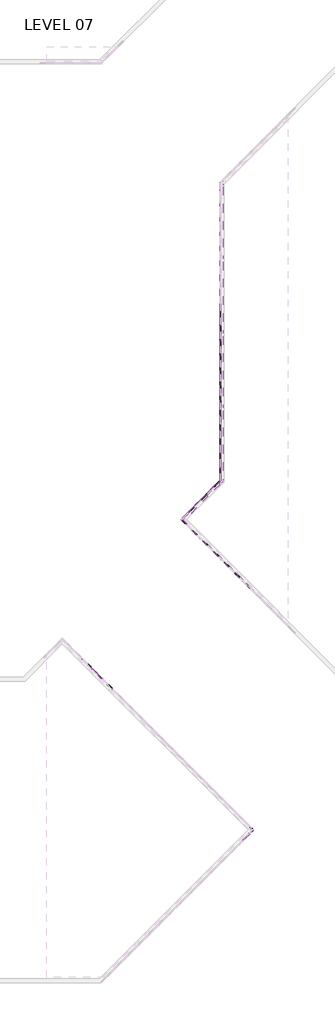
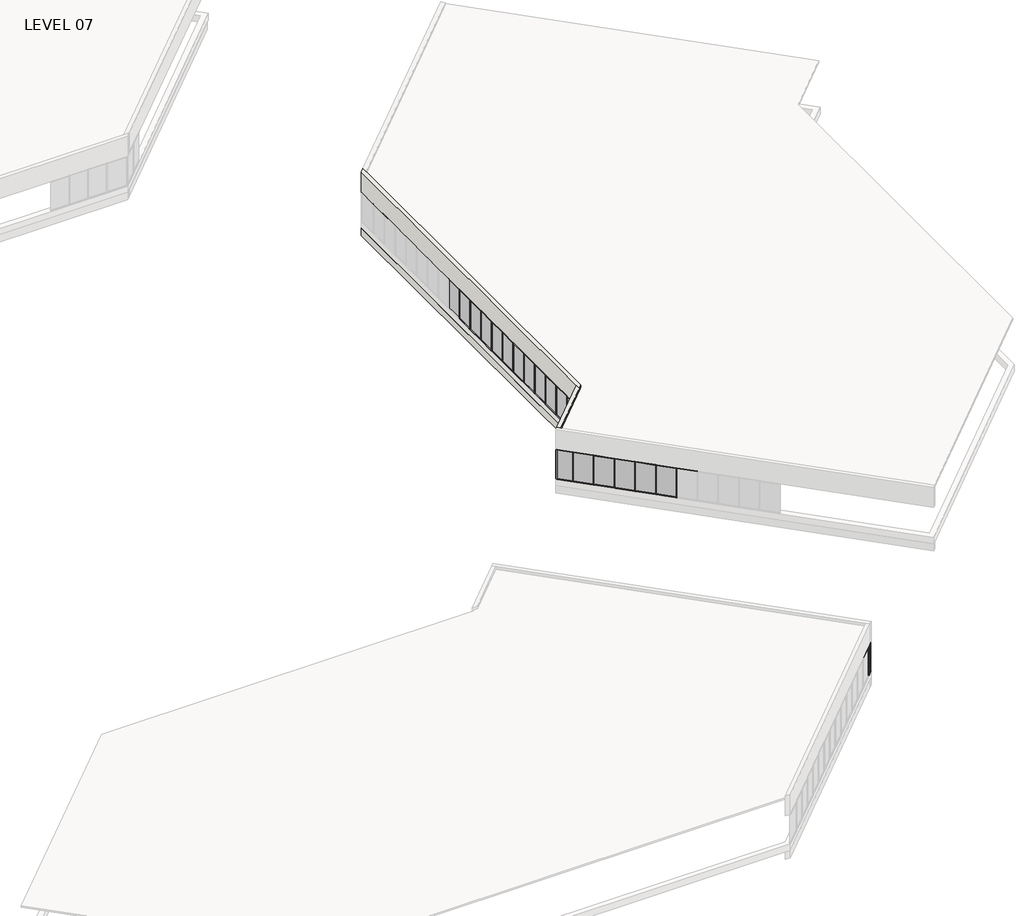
# One storey, part 10 of 18: 79 members, 25 plates, 4 walls.
"""IFC4 building model written with IfcOpenShell, lengths in millimetres."""

from ifc_helpers import new_model, si_unit, frame, origin, place, context, project, spatial, polyline, outline, extrude, faceted_brep, transform, mapped, element, save
from components import member_5247f267, member_e44af9ab, member_800970d4, member_ac5115e9, member_25b26a38, member_45eb7f2e, member_dd9f6d43, plate_67294edd, plate_c01932d8, plate_6d527a83, plate_9c66726c, plate_6ecefdb5, plate_129ab9d0, plate_c3b8b83d

model = new_model("IFC4")

# Units and contexts
model_context = context("Model", 3, world=origin())
ifc_project = project(units=[si_unit("LENGTHUNIT", "METRE", prefix="MILLI")], contexts=[model_context])

# Site, building, storey
site = spatial("IfcSite", under=ifc_project)
building = spatial("IfcBuilding", under=site)
storey = spatial("IfcBuildingStorey", under=building, Name="LEVEL 07", Elevation=23368.0)

# Members
placement = place(None, origin())
member_shape = member_5247f267(model_context)
element("IfcMember", 1, ObjectType="Rectangular Mullion : 2\" x 4.5\" rectangular", at=placement, inside=storey, context=model_context, shape_type="MappedRepresentation", body=[
    mapped(member_shape, transform((50218.4982901, 24903.2907176, 23368.0), x_axis=(0.0, 0.0, -1.0), y_axis=(0.707106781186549, 0.7071067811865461, 0.0), z_axis=(0.707106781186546, -0.7071067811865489, 0.0))),
])
element("IfcMember", 2, ObjectType="Rectangular Mullion : 2\" x 4.5\" rectangular", at=placement, inside=storey, context=model_context, shape_type="MappedRepresentation", body=[
    mapped(member_shape, transform((48063.236821, 27058.5521867, 23368.0), x_axis=(0.0, 0.0, -1.0), y_axis=(0.7071067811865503, 0.7071067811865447, 0.0), z_axis=(0.7071067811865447, -0.7071067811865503, 0.0))),
])
element("IfcMember", 3, ObjectType="Rectangular Mullion : 2\" x 4.5\" rectangular", at=placement, inside=storey, context=model_context, shape_type="MappedRepresentation", body=[
    mapped(member_shape, transform((64227.5191663, 10093.8459028, 25958.8), x_axis=(0.0, 0.0, 1.0), y_axis=(0.7071067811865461, -0.7071067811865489, 0.0), z_axis=(0.7071067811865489, 0.7071067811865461, 0.0))),
])
element("IfcMember", 4, ObjectType="Rectangular Mullion : 2\" x 4.5\" rectangular", at=placement, inside=storey, context=model_context, shape_type="MappedRepresentation", body=[
    mapped(member_shape, transform((48099.1578455, 27022.6311622, 25958.8), x_axis=(0.0, 0.0, 1.0), y_axis=(0.707106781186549, 0.7071067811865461, 0.0), z_axis=(-0.7071067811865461, 0.707106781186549, 0.0))),
])
member_2_shape = member_e44af9ab(model_context)
element("IfcMember", 5, ObjectType="Rectangular Mullion : 2\" x 4.5\" rectangular", at=placement, inside=storey, context=model_context, shape_type="MappedRepresentation", body=[
    mapped(member_2_shape, transform((64245.4796786, 10111.8064151, 23368.0), x_axis=(0.7071067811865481, 0.7071067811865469, 0.0), y_axis=(0.7071067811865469, -0.7071067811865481, 0.0), z_axis=(0.0, 0.0, -1.0))),
])
element("IfcMember", 6, ObjectType="Rectangular Mullion : 2\" x 4.5\" rectangular", at=placement, inside=storey, context=model_context, shape_type="MappedRepresentation", body=[
    mapped(member_2_shape, transform((50236.4588023, 24885.3302054, 23368.0), x_axis=(-0.7071067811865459, 0.7071067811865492, 0.0), y_axis=(0.7071067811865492, 0.7071067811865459, 0.0), z_axis=(0.0, 0.0, -1.0))),
])
element("IfcMember", 7, ObjectType="Rectangular Mullion : 2\" x 4.5\" rectangular", at=placement, inside=storey, context=model_context, shape_type="MappedRepresentation", body=[
    mapped(member_2_shape, transform((48081.1973333, 27040.5916745, 23368.0), x_axis=(-0.7071067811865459, 0.7071067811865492, 0.0), y_axis=(0.7071067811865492, 0.7071067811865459, 0.0), z_axis=(0.0, 0.0, -1.0))),
])
member_3_shape = member_800970d4(model_context)
element("IfcMember", 8, ObjectType="Rectangular Mullion : 2\" x 4.5\" rectangular", at=placement, inside=storey, context=model_context, shape_type="MappedRepresentation", body=[
    mapped(member_3_shape, transform((64627.7311356, 10494.0578721, 23368.0), x_axis=(0.7071067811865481, 0.7071067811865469, 0.0), y_axis=(0.7071067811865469, -0.7071067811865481, 0.0), z_axis=(0.0, 0.0, -1.0))),
])
member_4_shape = member_ac5115e9(model_context)
element("IfcMember", 9, ObjectType="Rectangular Mullion : 2\" x 4.5\" rectangular", at=placement, inside=storey, context=model_context, shape_type="MappedRepresentation", body=[
    mapped(member_4_shape, transform((64591.8101111, 10458.1368476, 25958.8), x_axis=(0.0, 0.0, 1.0), y_axis=(0.7071067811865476, -0.7071067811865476, 0.0), z_axis=(0.7071067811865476, 0.7071067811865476, 0.0))),
])
element("IfcMember", 10, ObjectType="Rectangular Mullion : 2\" x 4.5\" rectangular", at=placement, inside=storey, context=model_context, shape_type="MappedRepresentation", body=[
    mapped(member_4_shape, transform((64263.4401908, 10129.7669273, 23368.0), x_axis=(0.0, 0.0, -1.0), y_axis=(0.7071067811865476, -0.7071067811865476, 0.0), z_axis=(-0.7071067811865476, -0.7071067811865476, 0.0))),
])
member_5_shape = member_25b26a38(model_context)
element("IfcMember", 11, ObjectType="Rectangular Mullion : 2\" x 4.5\" rectangular", at=placement, inside=storey, context=model_context, shape_type="MappedRepresentation", body=[
    mapped(member_5_shape, transform((64591.8101111, 10529.9788966, 23368.0), x_axis=(0.0, 0.0, -1.0), y_axis=(0.7071067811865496, 0.7071067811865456, 0.0), z_axis=(0.7071067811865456, -0.7071067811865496, 0.0))),
])
element("IfcMember", 12, ObjectType="Rectangular Mullion : 2\" x 4.5\" rectangular", at=placement, inside=storey, context=model_context, shape_type="MappedRepresentation", body=[
    mapped(member_shape, transform((63554.1786299, 36011.8675394, 25958.8), x_axis=(0.0, 0.0, 1.0), y_axis=(0.7071067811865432, 0.7071067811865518, 0.0), z_axis=(-0.7071067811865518, 0.7071067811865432, 0.0))),
])
element("IfcMember", 13, ObjectType="Rectangular Mullion : 2\" x 4.5\" rectangular", at=placement, inside=storey, context=model_context, shape_type="MappedRepresentation", body=[
    mapped(member_shape, transform((62476.5478954, 37089.4982739, 25958.8), x_axis=(0.0, 0.0, 1.0), y_axis=(0.7071067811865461, 0.7071067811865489, 0.0), z_axis=(-0.7071067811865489, 0.7071067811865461, 0.0))),
])
element("IfcMember", 14, ObjectType="Rectangular Mullion : 2\" x 4.5\" rectangular", at=placement, inside=storey, context=model_context, shape_type="MappedRepresentation", body=[
    mapped(member_shape, transform((61398.9171608, 38167.1290085, 25958.8), x_axis=(0.0, 0.0, 1.0), y_axis=(0.7071067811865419, 0.7071067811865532, 0.0), z_axis=(-0.7071067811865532, 0.7071067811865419, 0.0))),
])
element("IfcMember", 15, ObjectType="Rectangular Mullion : 2\" x 4.5\" rectangular", at=placement, inside=storey, context=model_context, shape_type="MappedRepresentation", body=[
    mapped(member_shape, transform((60321.2864263, 39244.759743, 25958.8), x_axis=(0.0, 0.0, 1.0), y_axis=(0.7071067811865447, 0.7071067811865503, 0.0), z_axis=(-0.7071067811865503, 0.7071067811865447, 0.0))),
])
element("IfcMember", 16, ObjectType="Rectangular Mullion : 2\" x 4.5\" rectangular", at=placement, inside=storey, context=model_context, shape_type="MappedRepresentation", body=[
    mapped(member_shape, transform((59243.6556918, 40322.3904775, 25958.8), x_axis=(0.0, 0.0, 1.0), y_axis=(0.7071067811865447, 0.7071067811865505, 0.0), z_axis=(-0.7071067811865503, 0.7071067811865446, 0.0))),
])
element("IfcMember", 17, ObjectType="Rectangular Mullion : 2\" x 4.5\" rectangular", at=placement, inside=storey, context=model_context, shape_type="MappedRepresentation", body=[
    mapped(member_shape, transform((58166.0249572, 41400.021212, 25958.8), x_axis=(0.0, 0.0, 1.0), y_axis=(0.7071067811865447, 0.7071067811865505, 0.0), z_axis=(-0.7071067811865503, 0.7071067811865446, 0.0))),
])
element("IfcMember", 18, ObjectType="Rectangular Mullion : 2\" x 4.5\" rectangular", at=placement, inside=storey, context=model_context, shape_type="MappedRepresentation", body=[
    mapped(member_shape, transform((60285.3615109, 45275.2505186, 25958.8), x_axis=(0.0, 0.0, 1.0), y_axis=(0.7071067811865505, -0.7071067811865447, 0.0), z_axis=(0.7071067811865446, 0.7071067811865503, 0.0))),
])
element("IfcMember", 19, ObjectType="Rectangular Mullion : 2\" x 4.5\" rectangular", at=placement, inside=storey, context=model_context, shape_type="MappedRepresentation", body=[
    mapped(member_shape, transform((59207.7307764, 44197.6197841, 25958.8), x_axis=(0.0, 0.0, 1.0), y_axis=(0.7071067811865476, -0.7071067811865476, 0.0), z_axis=(0.7071067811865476, 0.7071067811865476, 0.0))),
])
element("IfcMember", 20, ObjectType="Rectangular Mullion : 2\" x 4.5\" rectangular", at=placement, inside=storey, context=model_context, shape_type="MappedRepresentation", body=[
    mapped(member_shape, transform((61263.7847164, 62877.3675885, 25958.8), x_axis=(0.0, 0.0, 1.0), y_axis=(-1.0, 0.0, 0.0), z_axis=(0.0, -1.0, 0.0))),
])
element("IfcMember", 21, ObjectType="Rectangular Mullion : 2\" x 4.5\" rectangular", at=placement, inside=storey, context=model_context, shape_type="MappedRepresentation", body=[
    mapped(member_shape, transform((61263.7847164, 59829.3675885, 25958.8), x_axis=(0.0, 0.0, 1.0), y_axis=(-1.0, 0.0, 0.0), z_axis=(0.0, -1.0, 0.0))),
])
element("IfcMember", 22, ObjectType="Rectangular Mullion : 2\" x 4.5\" rectangular", at=placement, inside=storey, context=model_context, shape_type="MappedRepresentation", body=[
    mapped(member_shape, transform((61263.7847164, 58305.3675885, 25958.8), x_axis=(0.0, 0.0, 1.0), y_axis=(-1.0, 0.0, 0.0), z_axis=(0.0, -1.0, 0.0))),
])
element("IfcMember", 23, ObjectType="Rectangular Mullion : 2\" x 4.5\" rectangular", at=placement, inside=storey, context=model_context, shape_type="MappedRepresentation", body=[
    mapped(member_shape, transform((61263.7847164, 56781.3675885, 25958.8), x_axis=(0.0, 0.0, 1.0), y_axis=(-1.0, 0.0, 0.0), z_axis=(0.0, -1.0, 0.0))),
])
element("IfcMember", 24, ObjectType="Rectangular Mullion : 2\" x 4.5\" rectangular", at=placement, inside=storey, context=model_context, shape_type="MappedRepresentation", body=[
    mapped(member_shape, transform((61263.7847164, 55257.3675885, 25958.8), x_axis=(0.0, 0.0, 1.0), y_axis=(-1.0, 0.0, 0.0), z_axis=(0.0, -1.0, 0.0))),
])
element("IfcMember", 25, ObjectType="Rectangular Mullion : 2\" x 4.5\" rectangular", at=placement, inside=storey, context=model_context, shape_type="MappedRepresentation", body=[
    mapped(member_shape, transform((61263.7847164, 52209.3675885, 25958.8), x_axis=(0.0, 0.0, 1.0), y_axis=(-1.0, 0.0, 0.0), z_axis=(0.0, -1.0, 0.0))),
])
element("IfcMember", 26, ObjectType="Rectangular Mullion : 2\" x 4.5\" rectangular", at=placement, inside=storey, context=model_context, shape_type="MappedRepresentation", body=[
    mapped(member_shape, transform((61263.7847164, 50685.3675885, 25958.8), x_axis=(0.0, 0.0, 1.0), y_axis=(-1.0, 0.0, 0.0), z_axis=(0.0, -1.0, 0.0))),
])
element("IfcMember", 27, ObjectType="Rectangular Mullion : 2\" x 4.5\" rectangular", at=placement, inside=storey, context=model_context, shape_type="MappedRepresentation", body=[
    mapped(member_shape, transform((61263.7847164, 49161.3675885, 25958.8), x_axis=(0.0, 0.0, 1.0), y_axis=(-1.0, 0.0, 0.0), z_axis=(0.0, -1.0, 0.0))),
])
element("IfcMember", 28, ObjectType="Rectangular Mullion : 2\" x 4.5\" rectangular", at=placement, inside=storey, context=model_context, shape_type="MappedRepresentation", body=[
    mapped(member_shape, transform((61263.7847164, 47637.3675885, 25958.8), x_axis=(0.0, 0.0, 1.0), y_axis=(-1.0, 0.0, 0.0), z_axis=(0.0, -1.0, 0.0))),
])
element("IfcMember", 29, ObjectType="Rectangular Mullion : 2\" x 4.5\" rectangular", at=placement, inside=storey, context=model_context, shape_type="MappedRepresentation", body=[
    mapped(member_shape, transform((61263.7847164, 53733.3675885, 25958.8), x_axis=(0.0, 0.0, 1.0), y_axis=(-1.0, 0.0, 0.0), z_axis=(0.0, -1.0, 0.0))),
])
element("IfcMember", 30, ObjectType="Rectangular Mullion : 2\" x 4.5\" rectangular", at=placement, inside=storey, context=model_context, shape_type="MappedRepresentation", body=[
    mapped(member_shape, transform((61263.7847164, 61353.3675885, 25958.8), x_axis=(0.0, 0.0, 1.0), y_axis=(-1.0, 0.0, 0.0), z_axis=(0.0, -1.0, 0.0))),
])
element("IfcMember", 31, ObjectType="Rectangular Mullion : 2\" x 4.5\" rectangular", at=placement, inside=storey, context=model_context, shape_type="MappedRepresentation", body=[
    mapped(member_shape, transform((63518.2576054, 36047.7885639, 23368.0), x_axis=(0.0, 0.0, -1.0), y_axis=(0.7071067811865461, 0.7071067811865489, 0.0), z_axis=(0.7071067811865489, -0.7071067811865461, 0.0))),
])
element("IfcMember", 32, ObjectType="Rectangular Mullion : 2\" x 4.5\" rectangular", at=placement, inside=storey, context=model_context, shape_type="MappedRepresentation", body=[
    mapped(member_shape, transform((62440.6268709, 37125.4192984, 23368.0), x_axis=(0.0, 0.0, -1.0), y_axis=(0.7071067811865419, 0.7071067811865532, 0.0), z_axis=(0.7071067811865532, -0.7071067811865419, 0.0))),
])
element("IfcMember", 33, ObjectType="Rectangular Mullion : 2\" x 4.5\" rectangular", at=placement, inside=storey, context=model_context, shape_type="MappedRepresentation", body=[
    mapped(member_shape, transform((61362.9961363, 38203.0500329, 23368.0), x_axis=(0.0, 0.0, -1.0), y_axis=(0.7071067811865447, 0.7071067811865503, 0.0), z_axis=(0.7071067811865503, -0.7071067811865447, 0.0))),
])
element("IfcMember", 34, ObjectType="Rectangular Mullion : 2\" x 4.5\" rectangular", at=placement, inside=storey, context=model_context, shape_type="MappedRepresentation", body=[
    mapped(member_shape, transform((60285.3654018, 39280.6807675, 23368.0), x_axis=(0.0, 0.0, -1.0), y_axis=(0.7071067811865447, 0.7071067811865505, 0.0), z_axis=(0.7071067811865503, -0.7071067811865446, 0.0))),
])
element("IfcMember", 35, ObjectType="Rectangular Mullion : 2\" x 4.5\" rectangular", at=placement, inside=storey, context=model_context, shape_type="MappedRepresentation", body=[
    mapped(member_shape, transform((59207.7346673, 40358.311502, 23368.0), x_axis=(0.0, 0.0, -1.0), y_axis=(0.7071067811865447, 0.7071067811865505, 0.0), z_axis=(0.7071067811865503, -0.7071067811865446, 0.0))),
])
element("IfcMember", 36, ObjectType="Rectangular Mullion : 2\" x 4.5\" rectangular", at=placement, inside=storey, context=model_context, shape_type="MappedRepresentation", body=[
    mapped(member_shape, transform((58166.0210663, 43155.9100741, 23368.0), x_axis=(0.0, 0.0, -1.0), y_axis=(0.7071067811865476, -0.7071067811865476, 0.0), z_axis=(-0.7071067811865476, -0.7071067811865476, 0.0))),
])
element("IfcMember", 37, ObjectType="Rectangular Mullion : 2\" x 4.5\" rectangular", at=placement, inside=storey, context=model_context, shape_type="MappedRepresentation", body=[
    mapped(member_shape, transform((59243.6518008, 44233.5408086, 23368.0), x_axis=(0.0, 0.0, -1.0), y_axis=(0.7071067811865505, -0.7071067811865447, 0.0), z_axis=(-0.7071067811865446, -0.7071067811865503, 0.0))),
])
element("IfcMember", 38, ObjectType="Rectangular Mullion : 2\" x 4.5\" rectangular", at=placement, inside=storey, context=model_context, shape_type="MappedRepresentation", body=[
    mapped(member_shape, transform((61263.7847164, 62826.5675885, 23368.0), x_axis=(0.0, 0.0, -1.0), y_axis=(-1.0, 0.0, 0.0), z_axis=(0.0, 1.0, 0.0))),
])
element("IfcMember", 39, ObjectType="Rectangular Mullion : 2\" x 4.5\" rectangular", at=placement, inside=storey, context=model_context, shape_type="MappedRepresentation", body=[
    mapped(member_shape, transform((61263.7847164, 59778.5675885, 23368.0), x_axis=(0.0, 0.0, -1.0), y_axis=(-1.0, 0.0, 0.0), z_axis=(0.0, 1.0, 0.0))),
])
element("IfcMember", 40, ObjectType="Rectangular Mullion : 2\" x 4.5\" rectangular", at=placement, inside=storey, context=model_context, shape_type="MappedRepresentation", body=[
    mapped(member_shape, transform((61263.7847164, 58254.5675885, 23368.0), x_axis=(0.0, 0.0, -1.0), y_axis=(-1.0, 0.0, 0.0), z_axis=(0.0, 1.0, 0.0))),
])
element("IfcMember", 41, ObjectType="Rectangular Mullion : 2\" x 4.5\" rectangular", at=placement, inside=storey, context=model_context, shape_type="MappedRepresentation", body=[
    mapped(member_shape, transform((61263.7847164, 56730.5675885, 23368.0), x_axis=(0.0, 0.0, -1.0), y_axis=(-1.0, 0.0, 0.0), z_axis=(0.0, 1.0, 0.0))),
])
element("IfcMember", 42, ObjectType="Rectangular Mullion : 2\" x 4.5\" rectangular", at=placement, inside=storey, context=model_context, shape_type="MappedRepresentation", body=[
    mapped(member_shape, transform((61263.7847164, 55206.5675885, 23368.0), x_axis=(0.0, 0.0, -1.0), y_axis=(-1.0, 0.0, 0.0), z_axis=(0.0, 1.0, 0.0))),
])
element("IfcMember", 43, ObjectType="Rectangular Mullion : 2\" x 4.5\" rectangular", at=placement, inside=storey, context=model_context, shape_type="MappedRepresentation", body=[
    mapped(member_shape, transform((61263.7847164, 52158.5675885, 23368.0), x_axis=(0.0, 0.0, -1.0), y_axis=(-1.0, 0.0, 0.0), z_axis=(0.0, 1.0, 0.0))),
])
element("IfcMember", 44, ObjectType="Rectangular Mullion : 2\" x 4.5\" rectangular", at=placement, inside=storey, context=model_context, shape_type="MappedRepresentation", body=[
    mapped(member_shape, transform((61263.7847164, 50634.5675885, 23368.0), x_axis=(0.0, 0.0, -1.0), y_axis=(-1.0, 0.0, 0.0), z_axis=(0.0, 1.0, 0.0))),
])
element("IfcMember", 45, ObjectType="Rectangular Mullion : 2\" x 4.5\" rectangular", at=placement, inside=storey, context=model_context, shape_type="MappedRepresentation", body=[
    mapped(member_shape, transform((61263.7847164, 49110.5675885, 23368.0), x_axis=(0.0, 0.0, -1.0), y_axis=(-1.0, 0.0, 0.0), z_axis=(0.0, 1.0, 0.0))),
])
element("IfcMember", 46, ObjectType="Rectangular Mullion : 2\" x 4.5\" rectangular", at=placement, inside=storey, context=model_context, shape_type="MappedRepresentation", body=[
    mapped(member_shape, transform((61263.7847164, 53682.5675885, 23368.0), x_axis=(0.0, 0.0, -1.0), y_axis=(-1.0, 0.0, 0.0), z_axis=(0.0, 1.0, 0.0))),
])
element("IfcMember", 47, ObjectType="Rectangular Mullion : 2\" x 4.5\" rectangular", at=placement, inside=storey, context=model_context, shape_type="MappedRepresentation", body=[
    mapped(member_shape, transform((61263.7847164, 61302.5675885, 23368.0), x_axis=(0.0, 0.0, -1.0), y_axis=(-1.0, 0.0, 0.0), z_axis=(0.0, 1.0, 0.0))),
])
element("IfcMember", 48, ObjectType="Rectangular Mullion : 2\" x 4.5\" rectangular", at=placement, inside=storey, context=model_context, shape_type="MappedRepresentation", body=[
    mapped(member_2_shape, transform((63536.2181176, 36029.8280517, 23368.0), x_axis=(-0.7071067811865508, 0.7071067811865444, 0.0), y_axis=(0.7071067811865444, 0.7071067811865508, 0.0), z_axis=(0.0, 0.0, -1.0))),
])
element("IfcMember", 49, ObjectType="Rectangular Mullion : 2\" x 4.5\" rectangular", at=placement, inside=storey, context=model_context, shape_type="MappedRepresentation", body=[
    mapped(member_2_shape, transform((62458.5873831, 37107.4587862, 23368.0), x_axis=(-0.7071067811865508, 0.7071067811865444, 0.0), y_axis=(0.7071067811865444, 0.7071067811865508, 0.0), z_axis=(0.0, 0.0, -1.0))),
])
element("IfcMember", 50, ObjectType="Rectangular Mullion : 2\" x 4.5\" rectangular", at=placement, inside=storey, context=model_context, shape_type="MappedRepresentation", body=[
    mapped(member_2_shape, transform((61380.9566486, 38185.0895207, 23368.0), x_axis=(-0.7071067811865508, 0.7071067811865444, 0.0), y_axis=(0.7071067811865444, 0.7071067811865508, 0.0), z_axis=(0.0, 0.0, -1.0))),
])
element("IfcMember", 51, ObjectType="Rectangular Mullion : 2\" x 4.5\" rectangular", at=placement, inside=storey, context=model_context, shape_type="MappedRepresentation", body=[
    mapped(member_2_shape, transform((60303.3259141, 39262.7202552, 23368.0), x_axis=(-0.7071067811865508, 0.7071067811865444, 0.0), y_axis=(0.7071067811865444, 0.7071067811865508, 0.0), z_axis=(0.0, 0.0, -1.0))),
])
element("IfcMember", 52, ObjectType="Rectangular Mullion : 2\" x 4.5\" rectangular", at=placement, inside=storey, context=model_context, shape_type="MappedRepresentation", body=[
    mapped(member_2_shape, transform((59225.6951795, 40340.3509898, 23368.0), x_axis=(-0.7071067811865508, 0.7071067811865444, 0.0), y_axis=(0.7071067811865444, 0.7071067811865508, 0.0), z_axis=(0.0, 0.0, -1.0))),
])
element("IfcMember", 53, ObjectType="Rectangular Mullion : 2\" x 4.5\" rectangular", at=placement, inside=storey, context=model_context, shape_type="MappedRepresentation", body=[
    mapped(member_2_shape, transform((58148.064445, 41417.9817243, 23368.0), x_axis=(-0.7071067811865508, 0.7071067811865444, 0.0), y_axis=(0.7071067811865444, 0.7071067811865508, 0.0), z_axis=(0.0, 0.0, -1.0))),
])
element("IfcMember", 54, ObjectType="Rectangular Mullion : 2\" x 4.5\" rectangular", at=placement, inside=storey, context=model_context, shape_type="MappedRepresentation", body=[
    mapped(member_2_shape, transform((58148.0605541, 43137.9495618, 23368.0), x_axis=(0.7071067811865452, 0.7071067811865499, 0.0), y_axis=(0.7071067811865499, -0.7071067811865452, 0.0), z_axis=(0.0, 0.0, -1.0))),
])
element("IfcMember", 55, ObjectType="Rectangular Mullion : 2\" x 4.5\" rectangular", at=placement, inside=storey, context=model_context, shape_type="MappedRepresentation", body=[
    mapped(member_2_shape, transform((60303.3220231, 45293.2110309, 23368.0), x_axis=(0.7071067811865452, 0.7071067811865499, 0.0), y_axis=(0.7071067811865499, -0.7071067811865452, 0.0), z_axis=(0.0, 0.0, -1.0))),
])
element("IfcMember", 56, ObjectType="Rectangular Mullion : 2\" x 4.5\" rectangular", at=placement, inside=storey, context=model_context, shape_type="MappedRepresentation", body=[
    mapped(member_2_shape, transform((59225.6912886, 44215.5802963, 23368.0), x_axis=(0.7071067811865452, 0.7071067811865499, 0.0), y_axis=(0.7071067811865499, -0.7071067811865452, 0.0), z_axis=(0.0, 0.0, -1.0))),
])
element("IfcMember", 57, ObjectType="Rectangular Mullion : 2\" x 4.5\" rectangular", at=placement, inside=storey, context=model_context, shape_type="MappedRepresentation", body=[
    mapped(member_2_shape, transform((61263.7847164, 62851.9675885, 23368.0), x_axis=(0.0, -1.0, 0.0), y_axis=(-1.0, 0.0, 0.0), z_axis=(0.0, 0.0, -1.0))),
])
element("IfcMember", 58, ObjectType="Rectangular Mullion : 2\" x 4.5\" rectangular", at=placement, inside=storey, context=model_context, shape_type="MappedRepresentation", body=[
    mapped(member_2_shape, transform((61263.7847164, 59803.9675885, 23368.0), x_axis=(0.0, -1.0, 0.0), y_axis=(-1.0, 0.0, 0.0), z_axis=(0.0, 0.0, -1.0))),
])
element("IfcMember", 59, ObjectType="Rectangular Mullion : 2\" x 4.5\" rectangular", at=placement, inside=storey, context=model_context, shape_type="MappedRepresentation", body=[
    mapped(member_2_shape, transform((61263.7847164, 58279.9675885, 23368.0), x_axis=(0.0, -1.0, 0.0), y_axis=(-1.0, 0.0, 0.0), z_axis=(0.0, 0.0, -1.0))),
])
element("IfcMember", 60, ObjectType="Rectangular Mullion : 2\" x 4.5\" rectangular", at=placement, inside=storey, context=model_context, shape_type="MappedRepresentation", body=[
    mapped(member_2_shape, transform((61263.7847164, 56755.9675885, 23368.0), x_axis=(0.0, -1.0, 0.0), y_axis=(-1.0, 0.0, 0.0), z_axis=(0.0, 0.0, -1.0))),
])
element("IfcMember", 61, ObjectType="Rectangular Mullion : 2\" x 4.5\" rectangular", at=placement, inside=storey, context=model_context, shape_type="MappedRepresentation", body=[
    mapped(member_2_shape, transform((61263.7847164, 55231.9675885, 23368.0), x_axis=(0.0, -1.0, 0.0), y_axis=(-1.0, 0.0, 0.0), z_axis=(0.0, 0.0, -1.0))),
])
element("IfcMember", 62, ObjectType="Rectangular Mullion : 2\" x 4.5\" rectangular", at=placement, inside=storey, context=model_context, shape_type="MappedRepresentation", body=[
    mapped(member_2_shape, transform((61263.7847164, 52183.9675885, 23368.0), x_axis=(0.0, -1.0, 0.0), y_axis=(-1.0, 0.0, 0.0), z_axis=(0.0, 0.0, -1.0))),
])
element("IfcMember", 63, ObjectType="Rectangular Mullion : 2\" x 4.5\" rectangular", at=placement, inside=storey, context=model_context, shape_type="MappedRepresentation", body=[
    mapped(member_2_shape, transform((61263.7847164, 50659.9675885, 23368.0), x_axis=(0.0, -1.0, 0.0), y_axis=(-1.0, 0.0, 0.0), z_axis=(0.0, 0.0, -1.0))),
])
element("IfcMember", 64, ObjectType="Rectangular Mullion : 2\" x 4.5\" rectangular", at=placement, inside=storey, context=model_context, shape_type="MappedRepresentation", body=[
    mapped(member_2_shape, transform((61263.7847164, 49135.9675885, 23368.0), x_axis=(0.0, -1.0, 0.0), y_axis=(-1.0, 0.0, 0.0), z_axis=(0.0, 0.0, -1.0))),
])
element("IfcMember", 65, ObjectType="Rectangular Mullion : 2\" x 4.5\" rectangular", at=placement, inside=storey, context=model_context, shape_type="MappedRepresentation", body=[
    mapped(member_2_shape, transform((61263.7847164, 47611.9675885, 23368.0), x_axis=(0.0, -1.0, 0.0), y_axis=(-1.0, 0.0, 0.0), z_axis=(0.0, 0.0, -1.0))),
])
element("IfcMember", 66, ObjectType="Rectangular Mullion : 2\" x 4.5\" rectangular", at=placement, inside=storey, context=model_context, shape_type="MappedRepresentation", body=[
    mapped(member_2_shape, transform((61263.7847164, 53707.9675885, 23368.0), x_axis=(0.0, -1.0, 0.0), y_axis=(-1.0, 0.0, 0.0), z_axis=(0.0, 0.0, -1.0))),
])
element("IfcMember", 67, ObjectType="Rectangular Mullion : 2\" x 4.5\" rectangular", at=placement, inside=storey, context=model_context, shape_type="MappedRepresentation", body=[
    mapped(member_2_shape, transform((61263.7847164, 61327.9675885, 23368.0), x_axis=(0.0, -1.0, 0.0), y_axis=(-1.0, 0.0, 0.0), z_axis=(0.0, 0.0, -1.0))),
])
element("IfcMember", 68, ObjectType="Rectangular Mullion : 2\" x 4.5\" rectangular", at=placement, inside=storey, context=model_context, shape_type="MappedRepresentation", body=[
    mapped(member_3_shape, transform((57288.0785808, 42277.9675885, 23368.0), x_axis=(-0.7071067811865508, 0.7071067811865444, 0.0), y_axis=(0.7071067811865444, 0.7071067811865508, 0.0), z_axis=(0.0, 0.0, -1.0))),
])
element("IfcMember", 69, ObjectType="Rectangular Mullion : 2\" x 4.5\" rectangular", at=placement, inside=storey, context=model_context, shape_type="MappedRepresentation", body=[
    mapped(member_3_shape, transform((61263.7847164, 46253.6737241, 23368.0), x_axis=(0.7071067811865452, 0.7071067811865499, 0.0), y_axis=(0.7071067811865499, -0.7071067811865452, 0.0), z_axis=(0.0, 0.0, -1.0))),
])
element("IfcMember", 70, ObjectType="Rectangular Mullion : 2\" x 4.5\" rectangular", at=placement, inside=storey, context=model_context, shape_type="MappedRepresentation", body=[
    mapped(member_3_shape, transform((61263.7847164, 46253.6737241, 23368.0), x_axis=(0.0, -1.0, 0.0), y_axis=(-1.0, 0.0, 0.0), z_axis=(0.0, 0.0, -1.0))),
])
element("IfcMember", 71, ObjectType="Rectangular Mullion : 2\" x 4.5\" rectangular", at=placement, inside=storey, context=model_context, shape_type="MappedRepresentation", body=[
    mapped(member_3_shape, transform((57288.0785808, 42277.9675885, 25958.8), x_axis=(-0.7071067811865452, -0.7071067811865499, 0.0), y_axis=(0.7071067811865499, -0.7071067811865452, 0.0), z_axis=(0.0, 0.0, 1.0))),
])
member_6_shape = member_45eb7f2e(model_context)
element("IfcMember", 72, ObjectType="Rectangular Mullion : 2\" x 4.5\" rectangular", at=placement, inside=storey, context=model_context, shape_type="MappedRepresentation", body=[
    mapped(member_6_shape, transform((61227.8636919, 46217.7526997, 25958.8), x_axis=(0.0, 0.0, 1.0), y_axis=(0.7071067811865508, -0.7071067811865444, 0.0), z_axis=(0.7071067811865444, 0.7071067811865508, 0.0))),
])
element("IfcMember", 73, ObjectType="Rectangular Mullion : 2\" x 4.5\" rectangular", at=placement, inside=storey, context=model_context, shape_type="MappedRepresentation", body=[
    mapped(member_6_shape, transform((61263.7847164, 46304.4737241, 25958.8), x_axis=(0.0, 0.0, 1.0), y_axis=(-1.0, 0.0, 0.0), z_axis=(0.0, -1.0, 0.0))),
])
element("IfcMember", 74, ObjectType="Rectangular Mullion : 2\" x 4.5\" rectangular", at=placement, inside=storey, context=model_context, shape_type="MappedRepresentation", body=[
    mapped(member_6_shape, transform((60321.2825354, 45311.1715431, 23368.0), x_axis=(0.0, 0.0, -1.0), y_axis=(0.7071067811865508, -0.7071067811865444, 0.0), z_axis=(-0.7071067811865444, -0.7071067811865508, 0.0))),
])
element("IfcMember", 75, ObjectType="Rectangular Mullion : 2\" x 4.5\" rectangular", at=placement, inside=storey, context=model_context, shape_type="MappedRepresentation", body=[
    mapped(member_6_shape, transform((61263.7847164, 47586.5675885, 23368.0), x_axis=(0.0, 0.0, -1.0), y_axis=(-1.0, 0.0, 0.0), z_axis=(0.0, 1.0, 0.0))),
])
member_7_shape = member_dd9f6d43(model_context)
element("IfcMember", 76, ObjectType="Rectangular Mullion : 2\" x 4.5\" rectangular", at=placement, inside=storey, context=model_context, shape_type="MappedRepresentation", body=[
    mapped(member_7_shape, transform((57323.9996053, 42242.046564, 25958.8), x_axis=(0.0, 0.0, 1.0), y_axis=(0.707106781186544, 0.7071067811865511, 0.0), z_axis=(-0.707106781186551, 0.7071067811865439, 0.0))),
])
element("IfcMember", 77, ObjectType="Rectangular Mullion : 2\" x 4.5\" rectangular", at=placement, inside=storey, context=model_context, shape_type="MappedRepresentation", body=[
    mapped(member_7_shape, transform((58130.1000418, 43119.9890496, 25958.8), x_axis=(0.0, 0.0, 1.0), y_axis=(0.7071067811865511, -0.707106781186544, 0.0), z_axis=(0.707106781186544, 0.7071067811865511, 0.0))),
])
element("IfcMember", 78, ObjectType="Rectangular Mullion : 2\" x 4.5\" rectangular", at=placement, inside=storey, context=model_context, shape_type="MappedRepresentation", body=[
    mapped(member_7_shape, transform((58130.1039328, 41435.9422365, 23368.0), x_axis=(0.0, 0.0, -1.0), y_axis=(0.707106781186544, 0.7071067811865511, 0.0), z_axis=(0.707106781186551, -0.7071067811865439, 0.0))),
])
element("IfcMember", 79, ObjectType="Rectangular Mullion : 2\" x 4.5\" rectangular", at=placement, inside=storey, context=model_context, shape_type="MappedRepresentation", body=[
    mapped(member_7_shape, transform((57323.9996053, 42313.888613, 23368.0), x_axis=(0.0, 0.0, -1.0), y_axis=(0.7071067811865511, -0.707106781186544, 0.0), z_axis=(-0.707106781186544, -0.7071067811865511, 0.0))),
])

# Plates
plate_shape = plate_67294edd(model_context)
element("IfcPlate", 80, ObjectType="System Panel : 1/4\" Glass", at=placement, inside=storey, context=model_context, shape_type="MappedRepresentation", body=[
    mapped(plate_shape, transform((48620.0127005, 26501.7763072, 23418.8), x_axis=(-0.7071067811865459, 0.7071067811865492, 0.0), y_axis=(-0.7071067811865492, -0.7071067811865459, 0.0), z_axis=(0.0, 0.0, 1.0))),
])
plate_2_shape = plate_c01932d8(model_context)
element("IfcPlate", 81, ObjectType="System Panel : 1/4\" Glass", at=placement, inside=storey, context=model_context, shape_type="MappedRepresentation", body=[
    mapped(plate_2_shape, transform((64427.625151, 10293.9518875, 23418.8), x_axis=(0.7071067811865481, 0.7071067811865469, 0.0), y_axis=(-0.7071067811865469, 0.7071067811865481, 0.0), z_axis=(0.0, 0.0, 1.0))),
])
plate_3_shape = plate_6d527a83(model_context)
element("IfcPlate", 82, ObjectType="System Panel : 1/4\" Glass", at=placement, inside=storey, context=model_context, shape_type="MappedRepresentation", body=[
    mapped(plate_3_shape, transform((64427.5358147, 10694.2531931, 23418.8), x_axis=(-0.7071067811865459, 0.7071067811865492, 0.0), y_axis=(-0.7071067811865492, -0.7071067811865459, 0.0), z_axis=(0.0, 0.0, 1.0))),
])
element("IfcPlate", 83, ObjectType="System Panel : 1/4\" Glass", at=placement, inside=storey, context=model_context, shape_type="MappedRepresentation", body=[
    mapped(plate_shape, transform((62997.4027504, 36568.6434189, 23418.8), x_axis=(-0.7071067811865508, 0.7071067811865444, 0.0), y_axis=(-0.7071067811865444, -0.7071067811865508, 0.0), z_axis=(0.0, 0.0, 1.0))),
])
element("IfcPlate", 84, ObjectType="System Panel : 1/4\" Glass", at=placement, inside=storey, context=model_context, shape_type="MappedRepresentation", body=[
    mapped(plate_shape, transform((61919.7720159, 37646.2741534, 23418.8), x_axis=(-0.7071067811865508, 0.7071067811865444, 0.0), y_axis=(-0.7071067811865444, -0.7071067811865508, 0.0), z_axis=(0.0, 0.0, 1.0))),
])
element("IfcPlate", 85, ObjectType="System Panel : 1/4\" Glass", at=placement, inside=storey, context=model_context, shape_type="MappedRepresentation", body=[
    mapped(plate_shape, transform((60842.1412813, 38723.904888, 23418.8), x_axis=(-0.7071067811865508, 0.7071067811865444, 0.0), y_axis=(-0.7071067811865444, -0.7071067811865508, 0.0), z_axis=(0.0, 0.0, 1.0))),
])
element("IfcPlate", 86, ObjectType="System Panel : 1/4\" Glass", at=placement, inside=storey, context=model_context, shape_type="MappedRepresentation", body=[
    mapped(plate_shape, transform((59764.5105468, 39801.5356225, 23418.8), x_axis=(-0.7071067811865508, 0.7071067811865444, 0.0), y_axis=(-0.7071067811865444, -0.7071067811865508, 0.0), z_axis=(0.0, 0.0, 1.0))),
])
element("IfcPlate", 87, ObjectType="System Panel : 1/4\" Glass", at=placement, inside=storey, context=model_context, shape_type="MappedRepresentation", body=[
    mapped(plate_shape, transform((58686.8798123, 40879.166357, 23418.8), x_axis=(-0.7071067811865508, 0.7071067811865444, 0.0), y_axis=(-0.7071067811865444, -0.7071067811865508, 0.0), z_axis=(0.0, 0.0, 1.0))),
])
element("IfcPlate", 88, ObjectType="System Panel : 1/4\" Glass", at=placement, inside=storey, context=model_context, shape_type="MappedRepresentation", body=[
    mapped(plate_shape, transform((58686.8759213, 43676.7649291, 23418.8), x_axis=(0.7071067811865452, 0.7071067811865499, 0.0), y_axis=(-0.7071067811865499, 0.7071067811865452, 0.0), z_axis=(0.0, 0.0, 1.0))),
])
element("IfcPlate", 89, ObjectType="System Panel : 1/4\" Glass", at=placement, inside=storey, context=model_context, shape_type="MappedRepresentation", body=[
    mapped(plate_shape, transform((59764.5066559, 44754.3956636, 23418.8), x_axis=(0.7071067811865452, 0.7071067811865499, 0.0), y_axis=(-0.7071067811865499, 0.7071067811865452, 0.0), z_axis=(0.0, 0.0, 1.0))),
])
element("IfcPlate", 90, ObjectType="System Panel : 1/4\" Glass", at=placement, inside=storey, context=model_context, shape_type="MappedRepresentation", body=[
    mapped(plate_shape, transform((61263.7847164, 63613.9675885, 23418.8), x_axis=(0.0, -1.0, 0.0), y_axis=(1.0, 0.0, 0.0), z_axis=(0.0, 0.0, 1.0))),
])
element("IfcPlate", 91, ObjectType="System Panel : 1/4\" Glass", at=placement, inside=storey, context=model_context, shape_type="MappedRepresentation", body=[
    mapped(plate_shape, transform((61263.7847164, 62089.9675885, 23418.8), x_axis=(0.0, -1.0, 0.0), y_axis=(1.0, 0.0, 0.0), z_axis=(0.0, 0.0, 1.0))),
])
element("IfcPlate", 92, ObjectType="System Panel : 1/4\" Glass", at=placement, inside=storey, context=model_context, shape_type="MappedRepresentation", body=[
    mapped(plate_shape, transform((61263.7847164, 59041.9675885, 23418.8), x_axis=(0.0, -1.0, 0.0), y_axis=(1.0, 0.0, 0.0), z_axis=(0.0, 0.0, 1.0))),
])
element("IfcPlate", 93, ObjectType="System Panel : 1/4\" Glass", at=placement, inside=storey, context=model_context, shape_type="MappedRepresentation", body=[
    mapped(plate_shape, transform((61263.7847164, 57517.9675885, 23418.8), x_axis=(0.0, -1.0, 0.0), y_axis=(1.0, 0.0, 0.0), z_axis=(0.0, 0.0, 1.0))),
])
element("IfcPlate", 94, ObjectType="System Panel : 1/4\" Glass", at=placement, inside=storey, context=model_context, shape_type="MappedRepresentation", body=[
    mapped(plate_shape, transform((61263.7847164, 55993.9675885, 23418.8), x_axis=(0.0, -1.0, 0.0), y_axis=(1.0, 0.0, 0.0), z_axis=(0.0, 0.0, 1.0))),
])
element("IfcPlate", 95, ObjectType="System Panel : 1/4\" Glass", at=placement, inside=storey, context=model_context, shape_type="MappedRepresentation", body=[
    mapped(plate_shape, transform((61263.7847164, 54469.9675885, 23418.8), x_axis=(0.0, -1.0, 0.0), y_axis=(1.0, 0.0, 0.0), z_axis=(0.0, 0.0, 1.0))),
])
element("IfcPlate", 96, ObjectType="System Panel : 1/4\" Glass", at=placement, inside=storey, context=model_context, shape_type="MappedRepresentation", body=[
    mapped(plate_shape, transform((61263.7847164, 51421.9675885, 23418.8), x_axis=(0.0, -1.0, 0.0), y_axis=(1.0, 0.0, 0.0), z_axis=(0.0, 0.0, 1.0))),
])
element("IfcPlate", 97, ObjectType="System Panel : 1/4\" Glass", at=placement, inside=storey, context=model_context, shape_type="MappedRepresentation", body=[
    mapped(plate_shape, transform((61263.7847164, 49897.9675885, 23418.8), x_axis=(0.0, -1.0, 0.0), y_axis=(1.0, 0.0, 0.0), z_axis=(0.0, 0.0, 1.0))),
])
element("IfcPlate", 98, ObjectType="System Panel : 1/4\" Glass", at=placement, inside=storey, context=model_context, shape_type="MappedRepresentation", body=[
    mapped(plate_shape, transform((61263.7847164, 48373.9675885, 23418.8), x_axis=(0.0, -1.0, 0.0), y_axis=(1.0, 0.0, 0.0), z_axis=(0.0, 0.0, 1.0))),
])
element("IfcPlate", 99, ObjectType="System Panel : 1/4\" Glass", at=placement, inside=storey, context=model_context, shape_type="MappedRepresentation", body=[
    mapped(plate_shape, transform((61263.7847164, 52945.9675885, 23418.8), x_axis=(0.0, -1.0, 0.0), y_axis=(1.0, 0.0, 0.0), z_axis=(0.0, 0.0, 1.0))),
])
element("IfcPlate", 100, ObjectType="System Panel : 1/4\" Glass", at=placement, inside=storey, context=model_context, shape_type="MappedRepresentation", body=[
    mapped(plate_shape, transform((61263.7847164, 60565.9675885, 23418.8), x_axis=(0.0, -1.0, 0.0), y_axis=(1.0, 0.0, 0.0), z_axis=(0.0, 0.0, 1.0))),
])
plate_4_shape = plate_9c66726c(model_context)
element("IfcPlate", 101, ObjectType="System Panel : 1/4\" Glass", at=placement, inside=storey, context=model_context, shape_type="MappedRepresentation", body=[
    mapped(plate_4_shape, transform((61263.7847164, 46945.5206563, 23418.8), x_axis=(0.0, -1.0, 0.0), y_axis=(1.0, 0.0, 0.0), z_axis=(0.0, 0.0, 1.0))),
])
plate_5_shape = plate_6ecefdb5(model_context)
element("IfcPlate", 102, ObjectType="System Panel : 1/4\" Glass", at=placement, inside=storey, context=model_context, shape_type="MappedRepresentation", body=[
    mapped(plate_5_shape, transform((57727.0498235, 42716.9388313, 23418.8), x_axis=(0.7071067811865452, 0.7071067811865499, 0.0), y_axis=(-0.7071067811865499, 0.7071067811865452, 0.0), z_axis=(0.0, 0.0, 1.0))),
])
plate_6_shape = plate_129ab9d0(model_context)
element("IfcPlate", 103, ObjectType="System Panel : 1/4\" Glass", at=placement, inside=storey, context=model_context, shape_type="MappedRepresentation", body=[
    mapped(plate_6_shape, transform((60774.5731136, 45764.4621214, 23418.8), x_axis=(0.7071067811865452, 0.7071067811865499, 0.0), y_axis=(-0.7071067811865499, 0.7071067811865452, 0.0), z_axis=(0.0, 0.0, 1.0))),
])
plate_7_shape = plate_c3b8b83d(model_context)
element("IfcPlate", 104, ObjectType="System Panel : 1/4\" Glass", at=placement, inside=storey, context=model_context, shape_type="MappedRepresentation", body=[
    mapped(plate_7_shape, transform((57727.051769, 41838.9944003, 23418.8), x_axis=(-0.7071067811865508, 0.7071067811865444, 0.0), y_axis=(-0.7071067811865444, -0.7071067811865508, 0.0), z_axis=(0.0, 0.0, 1.0))),
])

# Walls
element("IfcWall", 105, ObjectType="01-CONCRETE-12", at=placement, inside=storey, context=model_context, shape_type="Brep", body=[
    faceted_brep([(61206.6347164, 76757.3460292, 22186.9), (61206.6347164, 46277.3460292, 22186.9), (61206.6347164, 45846.2937354, 22186.9), (61206.6347164, 45846.2937354, 22809.2), (61206.6347164, 46277.3460292, 22809.2), (61206.6347164, 76757.3460292, 22809.2), (61511.4347164, 77062.1460292, 22186.9), (61511.4347164, 77062.1460292, 22809.2), (61511.4347164, 76631.0937354, 22809.2), (61511.4347164, 76348.8311968, 22809.2), (61511.4347164, 69252.7675885, 22809.2), (61511.4347164, 68643.1675885, 22809.2), (61511.4347164, 61632.7675885, 22809.2), (61511.4347164, 61023.1675885, 22809.2), (61511.4347164, 54012.7675885, 22809.2), (61511.4347164, 53403.1675885, 22809.2), (61511.4347164, 46392.7675885, 22809.2), (61511.4347164, 46151.0937354, 22809.2), (61511.4347164, 46151.0937354, 22186.9), (61511.4347164, 46392.7675885, 22186.9), (61511.4347164, 53403.1675885, 22186.9), (61511.4347164, 54012.7675885, 22186.9), (61511.4347164, 61023.1675885, 22186.9), (61511.4347164, 61632.7675885, 22186.9), (61511.4347164, 68643.1675885, 22186.9), (61511.4347164, 69252.7675885, 22186.9), (61511.4347164, 76348.8311968, 22186.9), (61511.4347164, 76631.0937354, 22186.9), (61460.6347164, 46100.2937354, 22186.9), (61460.6347164, 46100.2937354, 22809.2)], [[[0, 1, 2, 3, 4, 5]], [[6, 7, 8, 9, 10, 11, 12, 13, 14, 15, 16, 17, 18, 19, 20, 21, 22, 23, 24, 25, 26, 27]], [[2, 1, 0, 6, 27, 26, 25, 24, 23, 22, 21, 20, 19, 18, 28]], [[5, 4, 3, 29, 17, 16, 15, 14, 13, 12, 11, 10, 9, 8, 7]], [[3, 2, 28, 18, 17, 29]], [[0, 5, 7, 6]]]),
])
element("IfcWall", 106, ObjectType="01-CONCRETE-12", at=placement, inside=storey, context=model_context, shape_type="SweptSolid", body=[
    extrude(outline(polyline([(57422.7824226, 42493.4937354), (61206.6347164, 46277.3460292), (61206.6347164, 45846.2937354), (57638.3085695, 42277.9675885), (57422.7824226, 42493.4937354)])), frame((0.0, 0.0, 22186.9), z_axis=(0.0, 0.0, 1.0), x_axis=(1.0, 0.0, 0.0)), (0.0, 0.0, 1.0), 622.3),
])
element("IfcWall", 107, ObjectType="01-CONCRETE-12", at=placement, inside=storey, context=model_context, shape_type="Brep", body=[
    faceted_brep([(61206.6347164, 76757.3460292, 25958.8), (61206.6347164, 46277.3460292, 25958.8), (61206.6347164, 45846.2937354, 25958.8), (61206.6347164, 45846.2937354, 27673.3), (61206.6347164, 46277.3460292, 27673.3), (61206.6347164, 76757.3460292, 27673.3), (61511.4347164, 77062.1460292, 25958.8), (61511.4347164, 77062.1460292, 27673.3), (61511.4347164, 76631.0937354, 27673.3), (61511.4347164, 46151.0937354, 27673.3), (61511.4347164, 46151.0937354, 26111.2), (61511.4347164, 46151.0937354, 25958.8), (61511.4347164, 46392.7675885, 25958.8), (61511.4347164, 53403.1675885, 25958.8), (61511.4347164, 54012.7675885, 25958.8), (61511.4347164, 61023.1675885, 25958.8), (61511.4347164, 61632.7675885, 25958.8), (61511.4347164, 68643.1675885, 25958.8), (61511.4347164, 69252.7675885, 25958.8), (61511.4347164, 76348.8311968, 25958.8), (61511.4347164, 76631.0937354, 25958.8), (61460.6347164, 46100.2937354, 25958.8)], [[[0, 1, 2, 3, 4, 5]], [[6, 7, 8, 9, 10, 11, 12, 13, 14, 15, 16, 17, 18, 19, 20]], [[2, 1, 0, 6, 20, 19, 18, 17, 16, 15, 14, 13, 12, 11, 21]], [[5, 4, 3, 9, 8, 7]], [[3, 2, 21, 11, 10, 9]], [[0, 5, 7, 6]]]),
])
element("IfcWall", 108, ObjectType="01-CONCRETE-12", at=placement, inside=storey, context=model_context, shape_type="SweptSolid", body=[
    extrude(outline(polyline([(57422.7824226, 42493.4937354), (61206.6347164, 46277.3460292), (61206.6347164, 45846.2937354), (57638.3085695, 42277.9675885), (57422.7824226, 42493.4937354)])), frame((0.0, 0.0, 25958.8), z_axis=(0.0, 0.0, 1.0), x_axis=(1.0, 0.0, 0.0)), (0.0, 0.0, 1.0), 1714.5),
])

save(model, "model.ifc")
